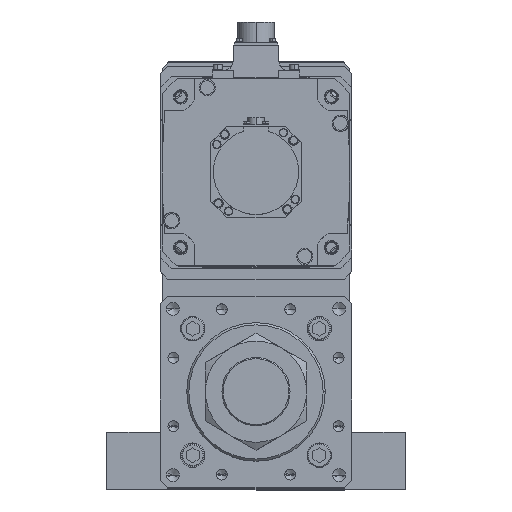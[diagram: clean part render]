
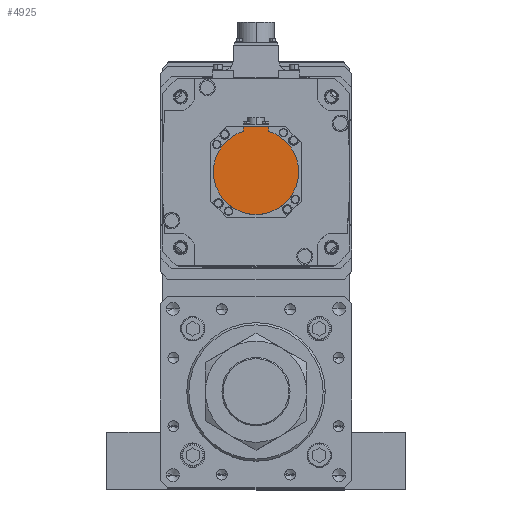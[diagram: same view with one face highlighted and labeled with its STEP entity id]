
A CAD part, top view. The second image highlights one B-rep face of the part: STEP entity #4925.
In plain terms, the highlighted planar face has unit normal (0, 0, 1) as drawn and (0, 0, -1) by its records, which use the part's own axes.
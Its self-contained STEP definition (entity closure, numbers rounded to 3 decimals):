
#495 = CARTESIAN_POINT ( 'NONE',  ( 0., 0., -178.5 ) ) ;
#834 = VECTOR ( 'NONE', #12233, 1000. ) ;
#1511 = AXIS2_PLACEMENT_3D ( 'NONE', #44766, #7420, #36606 ) ;
#1646 = ORIENTED_EDGE ( 'NONE', *, *, #3841, .T. ) ;
#2192 = CARTESIAN_POINT ( 'NONE',  ( 40., 0., -178.5 ) ) ;
#2861 = DIRECTION ( 'NONE',  ( 1., 0., 0. ) ) ;
#3397 = CARTESIAN_POINT ( 'NONE',  ( 0., 0., -178.5 ) ) ;
#3417 = VERTEX_POINT ( 'NONE', #45816 ) ;
#3841 = EDGE_CURVE ( 'NONE', #44614, #10881, #11236, .T. ) ;
#4925 = ADVANCED_FACE ( 'NONE', ( #21459 ), #24633, .F. ) ;
#6673 = AXIS2_PLACEMENT_3D ( 'NONE', #495, #21136, #45784 ) ;
#7420 = DIRECTION ( 'NONE',  ( 0., 0., 1. ) ) ;
#10036 = EDGE_CURVE ( 'NONE', #39052, #10881, #22724, .T. ) ;
#10881 = VERTEX_POINT ( 'NONE', #36437 ) ;
#11236 = LINE ( 'NONE', #24740, #834 ) ;
#11947 = CARTESIAN_POINT ( 'NONE',  ( 0., 0., -178.5 ) ) ;
#12233 = DIRECTION ( 'NONE',  ( 0., 1., 0. ) ) ;
#13910 = EDGE_CURVE ( 'NONE', #28457, #39052, #26213, .T. ) ;
#14327 = CARTESIAN_POINT ( 'NONE',  ( 0., -42.5, -178.5 ) ) ;
#15781 = VECTOR ( 'NONE', #39135, 1000. ) ;
#18947 = DIRECTION ( 'NONE',  ( 0., 1., 0. ) ) ;
#20344 = LINE ( 'NONE', #14327, #15781 ) ;
#21136 = DIRECTION ( 'NONE',  ( 0., 0., 1. ) ) ;
#21399 = CARTESIAN_POINT ( 'NONE',  ( 12., -38.158, -178.5 ) ) ;
#21459 = FACE_OUTER_BOUND ( 'NONE', #50615, .T. ) ;
#22724 = CIRCLE ( 'NONE', #6673, 40. ) ;
#24633 = PLANE ( 'NONE',  #1511 ) ;
#24740 = CARTESIAN_POINT ( 'NONE',  ( -12., -40.329, -178.5 ) ) ;
#24879 = EDGE_CURVE ( 'NONE', #3417, #44614, #20344, .T. ) ;
#26213 = CIRCLE ( 'NONE', #31879, 40. ) ;
#28027 = DIRECTION ( 'NONE',  ( 0., 0., 1. ) ) ;
#28457 = VERTEX_POINT ( 'NONE', #2192 ) ;
#29760 = VECTOR ( 'NONE', #18947, 1000. ) ;
#30482 = AXIS2_PLACEMENT_3D ( 'NONE', #3397, #28027, #2861 ) ;
#31085 = CARTESIAN_POINT ( 'NONE',  ( 12., -1.249, -178.5 ) ) ;
#31879 = AXIS2_PLACEMENT_3D ( 'NONE', #11947, #40923, #45640 ) ;
#36437 = CARTESIAN_POINT ( 'NONE',  ( -12., -38.158, -178.5 ) ) ;
#36606 = DIRECTION ( 'NONE',  ( 1., 0., 0. ) ) ;
#36871 = EDGE_CURVE ( 'NONE', #45284, #28457, #38385, .T. ) ;
#38385 = CIRCLE ( 'NONE', #30482, 40. ) ;
#39052 = VERTEX_POINT ( 'NONE', #51025 ) ;
#39135 = DIRECTION ( 'NONE',  ( -1., 0., 0. ) ) ;
#39961 = ORIENTED_EDGE ( 'NONE', *, *, #45982, .F. ) ;
#40798 = LINE ( 'NONE', #31085, #29760 ) ;
#40923 = DIRECTION ( 'NONE',  ( 0., 0., 1. ) ) ;
#43918 = ORIENTED_EDGE ( 'NONE', *, *, #13910, .F. ) ;
#44614 = VERTEX_POINT ( 'NONE', #46610 ) ;
#44766 = CARTESIAN_POINT ( 'NONE',  ( 0., -1.249, -178.5 ) ) ;
#45284 = VERTEX_POINT ( 'NONE', #21399 ) ;
#45640 = DIRECTION ( 'NONE',  ( 1., 0., 0. ) ) ;
#45784 = DIRECTION ( 'NONE',  ( 1., 0., 0. ) ) ;
#45816 = CARTESIAN_POINT ( 'NONE',  ( 12., -42.5, -178.5 ) ) ;
#45982 = EDGE_CURVE ( 'NONE', #3417, #45284, #40798, .T. ) ;
#46610 = CARTESIAN_POINT ( 'NONE',  ( -12., -42.5, -178.5 ) ) ;
#49305 = ORIENTED_EDGE ( 'NONE', *, *, #10036, .F. ) ;
#49541 = ORIENTED_EDGE ( 'NONE', *, *, #24879, .T. ) ;
#50615 = EDGE_LOOP ( 'NONE', ( #1646, #49305, #43918, #51933, #39961, #49541 ) ) ;
#51025 = CARTESIAN_POINT ( 'NONE',  ( -40., 0., -178.5 ) ) ;
#51933 = ORIENTED_EDGE ( 'NONE', *, *, #36871, .F. ) ;
